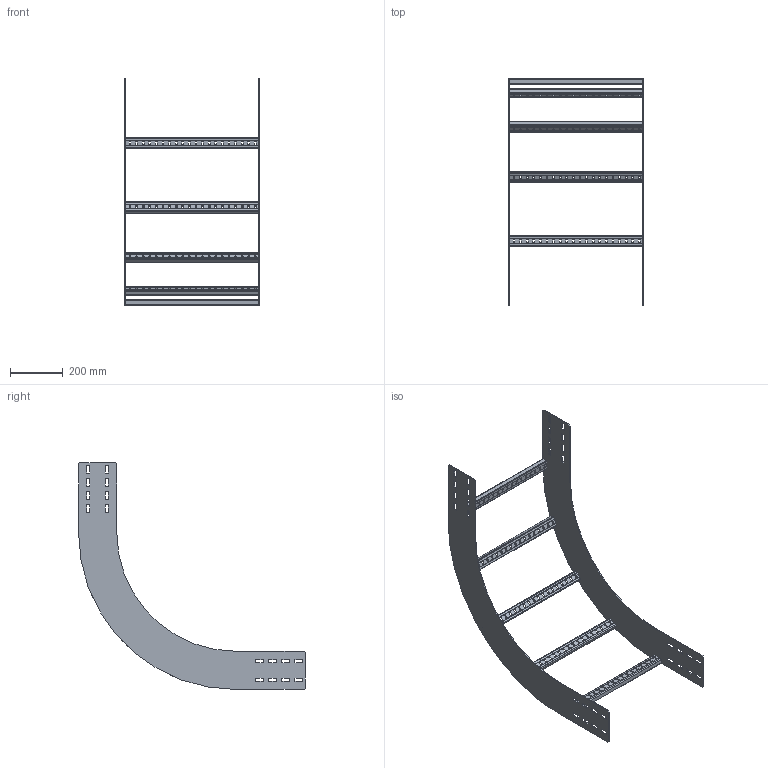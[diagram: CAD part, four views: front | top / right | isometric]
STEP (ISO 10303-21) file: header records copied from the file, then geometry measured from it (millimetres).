
FILE_DESCRIPTION(('Creo Elements/Direct Modeling STEP Export'),'2;1');
FILE_NAME('WPIR15-50-90-45.stp','2016-06-01T14:16:27',(''),(''),'PTC Creo Elements/Direct Modeling STEP processor for AP214 (Solid Model)','PTC Creo Elements/Direct Modeling 19.0C 15-Aug-2015 (C) Parametric Technology GmbH','');
FILE_SCHEMA(('AUTOMOTIVE_DESIGN { 1 0 10303 214 1 1 1 1 }'));
Length unit declared in the file: millimetre
Products named in the file (3): WPIBG150_450; WPHBS50; WPIR15-50-90-45
Assembly tree (7 placements, depth 2):
  WPIR15-50-90-45
    WPHBS50  x5
    WPIBG150_450  x2
Bounding box: 511 x 860 x 860 mm (x, y, z)
Volume: 1510227.1 mm3; surface area: 1293536.6 mm2
Topology: 7 solids, 7 shells, 756 faces, 2226 edges, 1484 vertices
Faces by surface type: plane 462, cylinder 294
Entity records: 6820 total; most frequent: CARTESIAN_POINT 1175, ORIENTED_EDGE 1164, DIRECTION 1112, EDGE_CURVE 582, VECTOR 462, LINE 462, VERTEX_POINT 388, AXIS2_PLACEMENT_3D 325
